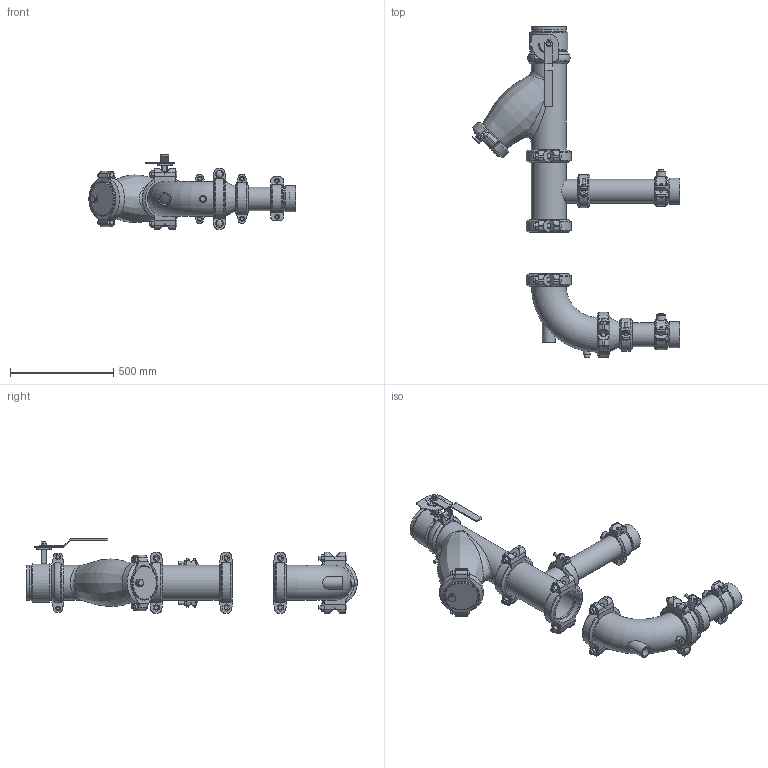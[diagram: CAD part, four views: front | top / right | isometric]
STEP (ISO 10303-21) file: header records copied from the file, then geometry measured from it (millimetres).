
FILE_DESCRIPTION(/* description */ ('VIC SVI DOUBLE COIL AHU DROP LOW PROFILE SERIES 385H (OGSxFPT)','CAx-IF Rec.Pracs.---Representation and Presentation of Product Manufacturing Information (PMI)---4.0---2014-10-13'),/* implementation_level */ '2;1');
FILE_NAME(/* name */ 'C:\Users\Vjadhav\AppData\Roaming\Autodesk\ApplicationPlugins\Victaulic.Temp\A526\Victaulic_IPS_SVI_Double Coil_Low Profile_Series 385H (OGSxFPT)_06.0x04.0 (150x100).stp',/* time_stamp */ '2021-03-17T15:41:51+05:00',/* author */ ('Vjadhav'),/* organization */ ('Victaulic'),/* preprocessor_version */ 'ST-DEVELOPER v17.2',/* originating_system */ 'Autodesk Inventor 2019',/* authorisation */ '');
FILE_SCHEMA (('AP242_MANAGED_MODEL_BASED_3D_ENGINEERING_MIM_LF { 1 0 10303 442 1 1 4 }'));
Length unit declared in the file: inch
Products named in the file (16): 385H-06.0x04.0; Pipe-04.0; 050-06.0x04.0; 025-06.0x04.0; 177N-06.0; 732-06.0; 732-06.0_1; 07-06.0; 732-06.0_2; 107N-06.0; 761-06.0; 177N-04.0; Pipe_(1'-2 1/8")-04.0; 072-04.0x0.75; 080-04.0; 100G-06.0
Assembly tree (21 placements, depth 3):
  385H-06.0x04.0
    080-04.0  x2
    072-04.0x0.75  x2
    Pipe-04.0
    177N-04.0  x2
    050-06.0x04.0
    177N-06.0  x4
    025-06.0x04.0
    732-06.0
      732-06.0_1
      07-06.0
      732-06.0_2
    107N-06.0
    761-06.0
    Pipe_(1'-2 1/8")-04.0
    100G-06.0
Bounding box: 1000.85 x 1598.42 x 360.15 mm (x, y, z)
Volume: 18350661.3 mm3; surface area: 3818648.8 mm2
Topology: 20 solids, 23 shells, 1231 faces, 3302 edges, 2197 vertices
Faces by surface type: plane 670, cylinder 404, torus 56, cone 47, bspline 38, sphere 16
Full cylindrical faces by diameter (mm): 4.826 x10, 8.636 x4, 10.16 x8, 14.605 x4, 15.875 x12, 19.05 x10, 20.93 x3, 22.86 x5, 23.495 x4, 26.67 x4, 27.381 x4, 31.75 x2, 34.29 x2, 35.56 x1, 37.694 x8, 48.26 x1, 55.118 x1, 60.96 x1, 101.6 x2, 102.26 x6, 110.084 x8, 114.3 x22, 127 x2, 139.7 x1, 153.797 x1, 154.051 x6, 155.575 x6, 163.957 x11, 168.275 x28, 185.42 x1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
Entity records: 29741 total; most frequent: CARTESIAN_POINT 8818, DIRECTION 4252, ORIENTED_EDGE 3994, EDGE_CURVE 1997, AXIS2_PLACEMENT_3D 1640, VERTEX_POINT 1341, LINE 972, VECTOR 972
